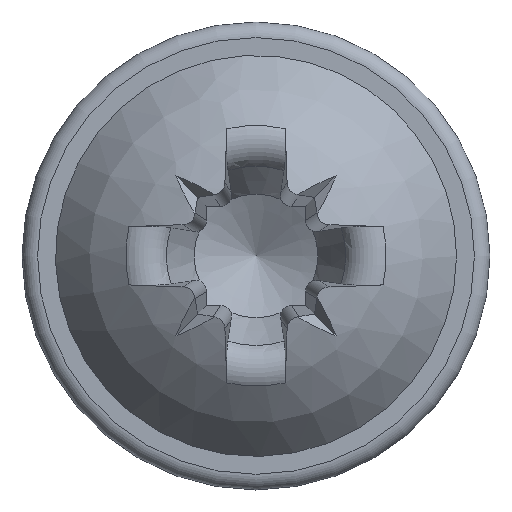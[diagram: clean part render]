
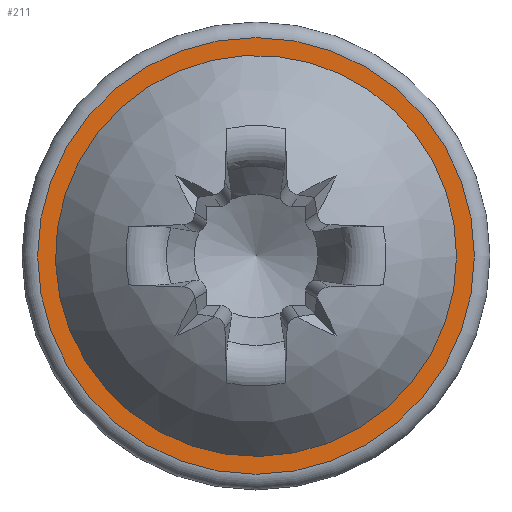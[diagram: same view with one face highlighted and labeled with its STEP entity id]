
A CAD part, top view. The second image highlights one B-rep face of the part: STEP entity #211.
In plain terms, the highlighted planar face has unit normal (0, 0, 1).
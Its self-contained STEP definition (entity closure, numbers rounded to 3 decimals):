
#137=PLANE('',#1191);
#192=FACE_BOUND('',#349,.T.);
#193=FACE_BOUND('',#350,.T.);
#211=ADVANCED_FACE('',(#192,#193),#137,.F.);
#349=EDGE_LOOP('',(#516));
#350=EDGE_LOOP('',(#517));
#415=CIRCLE('',#1155,2.143);
#443=CIRCLE('',#1190,2.333);
#516=ORIENTED_EDGE('',*,*,#959,.T.);
#517=ORIENTED_EDGE('',*,*,#913,.F.);
#800=VERTEX_POINT('',#1766);
#843=VERTEX_POINT('',#2189);
#913=EDGE_CURVE('',#800,#800,#415,.T.);
#959=EDGE_CURVE('',#843,#843,#443,.T.);
#1155=AXIS2_PLACEMENT_3D('',#1765,#1264,#1265);
#1190=AXIS2_PLACEMENT_3D('',#2188,#1334,#1335);
#1191=AXIS2_PLACEMENT_3D('',#2190,#1336,#1337);
#1264=DIRECTION('',(0.,0.,1.));
#1265=DIRECTION('',(1.,0.,0.));
#1334=DIRECTION('',(0.,0.,1.));
#1335=DIRECTION('',(-1.,0.,0.));
#1336=DIRECTION('',(0.,0.,-1.));
#1337=DIRECTION('',(-1.,0.,0.));
#1765=CARTESIAN_POINT('',(0.,0.,0.6));
#1766=CARTESIAN_POINT('',(2.143,0.,0.6));
#2188=CARTESIAN_POINT('',(0.,0.,0.6));
#2189=CARTESIAN_POINT('',(-2.333,0.,0.6));
#2190=CARTESIAN_POINT('',(0.,2.5,0.6));
